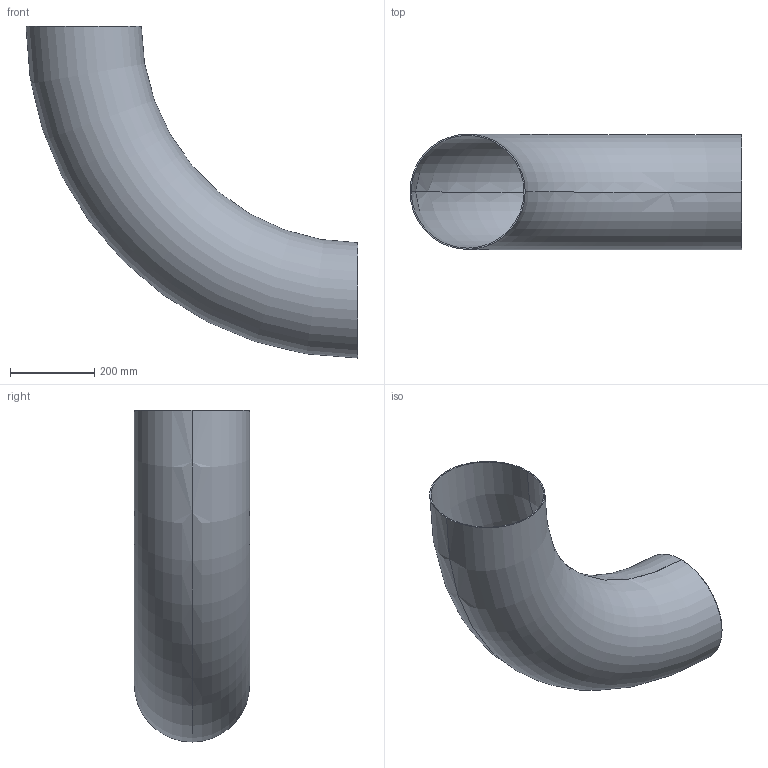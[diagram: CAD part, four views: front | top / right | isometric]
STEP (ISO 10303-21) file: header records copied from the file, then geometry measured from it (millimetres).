
FILE_DESCRIPTION (( 'STEP AP203' ), '1' );
FILE_NAME ('3D_R1655_273x3_17362380.STEP', '2024-08-05T09:27:21', ( '' ), ( '' ), 'SwSTEP 2.0', 'SolidWorks 2024', '' );
FILE_SCHEMA (( 'CONFIG_CONTROL_DESIGN' ));
Length unit declared in the file: millimetre
Products named in the file (1): 3D_R1655_273x3_17362380
Bounding box: 786.5 x 273 x 786.5 mm (x, y, z)
Volume: 2598173.4 mm3; surface area: 1737205 mm2
Topology: 1 solids, 1 shells, 6 faces, 12 edges, 8 vertices
Faces by surface type: torus 4, plane 2
Entity records: 249 total; most frequent: DIRECTION 38, CARTESIAN_POINT 27, ORIENTED_EDGE 24, AXIS2_PLACEMENT_3D 19, CIRCLE 12, EDGE_CURVE 12, PERSON_AND_ORGANIZATION 8, VERTEX_POINT 8
